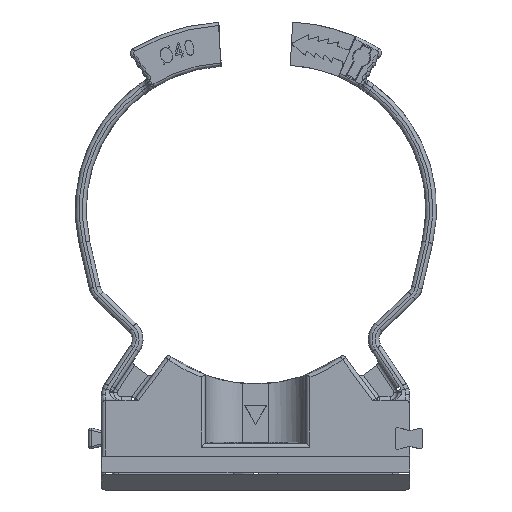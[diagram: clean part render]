
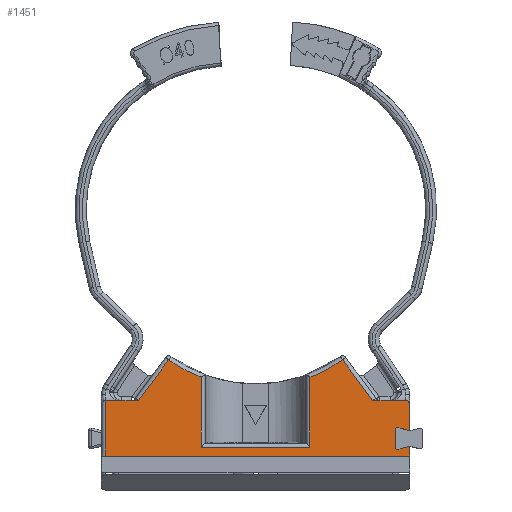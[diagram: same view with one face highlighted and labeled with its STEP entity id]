
A CAD part, top view. The second image highlights one B-rep face of the part: STEP entity #1451.
In plain terms, the highlighted planar face has unit normal (0, 0, 1).
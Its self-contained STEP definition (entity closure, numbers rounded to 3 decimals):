
#749=CIRCLE('',#8736,0.3);
#750=CIRCLE('',#8737,0.3);
#1135=ELLIPSE('',#8735,20.528,20.527);
#1136=ELLIPSE('',#8738,0.5,0.5);
#1137=ELLIPSE('',#8739,20.528,20.527);
#1451=ADVANCED_FACE('',(#2013),#1683,.T.);
#1683=PLANE('',#8740);
#2013=FACE_OUTER_BOUND('',#2453,.T.);
#2453=EDGE_LOOP('',(#3915,#3916,#3917,#3918,#3919,#3920,#3921,#3922,#3923,
#3924,#3925,#3926,#3927,#3928,#3929,#3930,#3931,#3932,#3933,#3934,#3935));
#3915=ORIENTED_EDGE('',*,*,#6576,.F.);
#3916=ORIENTED_EDGE('',*,*,#6577,.T.);
#3917=ORIENTED_EDGE('',*,*,#6561,.T.);
#3918=ORIENTED_EDGE('',*,*,#6550,.F.);
#3919=ORIENTED_EDGE('',*,*,#6339,.F.);
#3920=ORIENTED_EDGE('',*,*,#6578,.F.);
#3921=ORIENTED_EDGE('',*,*,#6579,.T.);
#3922=ORIENTED_EDGE('',*,*,#6019,.T.);
#3923=ORIENTED_EDGE('',*,*,#6580,.T.);
#3924=ORIENTED_EDGE('',*,*,#6581,.T.);
#3925=ORIENTED_EDGE('',*,*,#6582,.F.);
#3926=ORIENTED_EDGE('',*,*,#6583,.T.);
#3927=ORIENTED_EDGE('',*,*,#6584,.T.);
#3928=ORIENTED_EDGE('',*,*,#6008,.T.);
#3929=ORIENTED_EDGE('',*,*,#6585,.T.);
#3930=ORIENTED_EDGE('',*,*,#6350,.T.);
#3931=ORIENTED_EDGE('',*,*,#6549,.T.);
#3932=ORIENTED_EDGE('',*,*,#6564,.T.);
#3933=ORIENTED_EDGE('',*,*,#6586,.T.);
#3934=ORIENTED_EDGE('',*,*,#6545,.T.);
#3935=ORIENTED_EDGE('',*,*,#6587,.T.);
#5078=VERTEX_POINT('',#12732);
#5079=VERTEX_POINT('',#12734);
#5081=VERTEX_POINT('',#12740);
#5088=VERTEX_POINT('',#12754);
#5216=VERTEX_POINT('',#13926);
#5304=VERTEX_POINT('',#14402);
#5307=VERTEX_POINT('',#14413);
#5310=VERTEX_POINT('',#14420);
#5435=VERTEX_POINT('',#14891);
#5436=VERTEX_POINT('',#14893);
#5438=VERTEX_POINT('',#14941);
#5439=VERTEX_POINT('',#14952);
#5442=VERTEX_POINT('',#15049);
#5443=VERTEX_POINT('',#15053);
#5451=VERTEX_POINT('',#15077);
#5452=VERTEX_POINT('',#15078);
#5453=VERTEX_POINT('',#15081);
#5454=VERTEX_POINT('',#15084);
#5455=VERTEX_POINT('',#15086);
#5456=VERTEX_POINT('',#15088);
#5457=VERTEX_POINT('',#15090);
#6008=EDGE_CURVE('',#5079,#5078,#7116,.T.);
#6019=EDGE_CURVE('',#5081,#5088,#7127,.T.);
#6339=EDGE_CURVE('',#5216,#5304,#7232,.T.);
#6350=EDGE_CURVE('',#5307,#5310,#7240,.T.);
#6545=EDGE_CURVE('',#5436,#5435,#7357,.T.);
#6549=EDGE_CURVE('',#5310,#5438,#7358,.T.);
#6550=EDGE_CURVE('',#5304,#5439,#7359,.T.);
#6561=EDGE_CURVE('',#5442,#5439,#7360,.T.);
#6564=EDGE_CURVE('',#5438,#5443,#7361,.T.);
#6576=EDGE_CURVE('',#5451,#5452,#7367,.T.);
#6577=EDGE_CURVE('',#5451,#5442,#1135,.T.);
#6578=EDGE_CURVE('',#5453,#5216,#7368,.T.);
#6579=EDGE_CURVE('',#5453,#5081,#7369,.T.);
#6580=EDGE_CURVE('',#5088,#5454,#7370,.T.);
#6581=EDGE_CURVE('',#5454,#5455,#749,.T.);
#6582=EDGE_CURVE('',#5456,#5455,#7371,.T.);
#6583=EDGE_CURVE('',#5456,#5457,#750,.T.);
#6584=EDGE_CURVE('',#5457,#5079,#7372,.T.);
#6585=EDGE_CURVE('',#5078,#5307,#1136,.T.);
#6586=EDGE_CURVE('',#5443,#5436,#1137,.T.);
#6587=EDGE_CURVE('',#5435,#5452,#7373,.T.);
#7116=LINE('',#12733,#7677);
#7127=LINE('',#12755,#7688);
#7232=LINE('',#14401,#7795);
#7240=LINE('',#14421,#7803);
#7357=LINE('',#14892,#7920);
#7358=LINE('',#14942,#7921);
#7359=LINE('',#14951,#7922);
#7360=LINE('',#15048,#7923);
#7361=LINE('',#15054,#7924);
#7367=LINE('',#15076,#7930);
#7368=LINE('',#15080,#7931);
#7369=LINE('',#15082,#7932);
#7370=LINE('',#15083,#7933);
#7371=LINE('',#15087,#7934);
#7372=LINE('',#15091,#7935);
#7373=LINE('',#15094,#7936);
#7677=VECTOR('',#9551,1.);
#7688=VECTOR('',#9564,1.);
#7795=VECTOR('',#10119,1.);
#7803=VECTOR('',#10137,1.);
#7920=VECTOR('',#10494,1.);
#7921=VECTOR('',#10497,1.);
#7922=VECTOR('',#10498,1.);
#7923=VECTOR('',#10513,1.);
#7924=VECTOR('',#10520,1.);
#7930=VECTOR('',#10544,1.);
#7931=VECTOR('',#10547,1.);
#7932=VECTOR('',#10548,1.);
#7933=VECTOR('',#10549,1.);
#7934=VECTOR('',#10552,1.);
#7935=VECTOR('',#10555,1.);
#7936=VECTOR('',#10560,1.);
#8735=AXIS2_PLACEMENT_3D('',#15079,#10545,#10546);
#8736=AXIS2_PLACEMENT_3D('',#15085,#10550,#10551);
#8737=AXIS2_PLACEMENT_3D('',#15089,#10553,#10554);
#8738=AXIS2_PLACEMENT_3D('',#15092,#10556,#10557);
#8739=AXIS2_PLACEMENT_3D('',#15093,#10558,#10559);
#8740=AXIS2_PLACEMENT_3D('',#15095,#10561,#10562);
#9551=DIRECTION('',(0.,1.,0.));
#9564=DIRECTION('',(0.,1.,0.));
#10119=DIRECTION('',(1.,0.,0.));
#10137=DIRECTION('',(-1.,0.,0.));
#10494=DIRECTION('',(0.,-1.,0.));
#10497=DIRECTION('',(-1.,0.,0.));
#10498=DIRECTION('',(1.,0.,0.));
#10513=DIRECTION('',(-0.597,-0.802,0.));
#10520=DIRECTION('',(-0.597,0.802,0.));
#10544=DIRECTION('',(0.,-1.,0.));
#10545=DIRECTION('',(0.,0.,-1.));
#10546=DIRECTION('',(-0.463,-0.886,0.));
#10547=DIRECTION('',(0.,1.,0.));
#10548=DIRECTION('',(1.,0.,0.));
#10549=DIRECTION('',(-0.966,-0.259,0.));
#10550=DIRECTION('',(0.,0.,-1.));
#10551=DIRECTION('',(0.259,-0.966,0.));
#10552=DIRECTION('',(0.,-1.,0.));
#10553=DIRECTION('',(0.,0.,-1.));
#10554=DIRECTION('',(-1.,0.,0.));
#10555=DIRECTION('',(0.966,-0.259,0.));
#10556=DIRECTION('',(0.,0.,1.));
#10557=DIRECTION('',(0.707,0.707,0.));
#10558=DIRECTION('',(0.,0.,-1.));
#10559=DIRECTION('',(0.463,-0.886,0.));
#10560=DIRECTION('',(-1.,0.,0.));
#10561=DIRECTION('',(0.,0.,1.));
#10562=DIRECTION('',(-1.,0.,0.));
#12732=CARTESIAN_POINT('',(39.99,11.32,13.));
#12733=CARTESIAN_POINT('',(39.99,7.715,13.));
#12734=CARTESIAN_POINT('',(39.99,7.715,13.));
#12740=CARTESIAN_POINT('',(39.99,4.252,13.));
#12754=CARTESIAN_POINT('',(39.99,5.589,13.));
#12755=CARTESIAN_POINT('',(39.99,4.252,13.));
#13926=CARTESIAN_POINT('',(-1.394,11.82,12.993));
#14401=CARTESIAN_POINT('',(-1.397,11.82,13.));
#14402=CARTESIAN_POINT('',(2.392,11.82,13.));
#14413=CARTESIAN_POINT('',(39.49,11.82,13.));
#14420=CARTESIAN_POINT('',(35.701,11.82,13.));
#14421=CARTESIAN_POINT('',(-1.908,11.82,13.));
#14891=CARTESIAN_POINT('',(26.449,5.458,13.));
#14892=CARTESIAN_POINT('',(26.449,14.979,13.));
#14893=CARTESIAN_POINT('',(26.449,14.979,13.));
#14941=CARTESIAN_POINT('',(34.997,11.82,13.));
#14942=CARTESIAN_POINT('',(35.701,11.82,13.));
#14951=CARTESIAN_POINT('',(2.392,11.82,13.));
#14952=CARTESIAN_POINT('',(3.097,11.82,13.));
#15048=CARTESIAN_POINT('',(7.215,17.347,13.));
#15049=CARTESIAN_POINT('',(7.215,17.347,13.));
#15053=CARTESIAN_POINT('',(30.879,17.347,13.));
#15054=CARTESIAN_POINT('',(34.997,11.82,13.));
#15076=CARTESIAN_POINT('',(11.644,14.979,13.));
#15077=CARTESIAN_POINT('',(11.644,14.979,13.));
#15078=CARTESIAN_POINT('',(11.644,5.458,13.));
#15079=CARTESIAN_POINT('',(19.035,34.13,13.));
#15080=CARTESIAN_POINT('',(-1.401,4.252,13.));
#15081=CARTESIAN_POINT('',(-1.401,4.252,13.));
#15082=CARTESIAN_POINT('',(39.99,4.252,13.));
#15083=CARTESIAN_POINT('',(39.99,5.589,13.));
#15084=CARTESIAN_POINT('',(38.424,5.169,13.));
#15085=CARTESIAN_POINT('',(38.347,5.459,13.));
#15086=CARTESIAN_POINT('',(38.047,5.459,13.));
#15087=CARTESIAN_POINT('',(38.047,7.845,13.));
#15088=CARTESIAN_POINT('',(38.047,7.845,13.));
#15089=CARTESIAN_POINT('',(38.347,7.845,13.));
#15090=CARTESIAN_POINT('',(38.424,8.135,13.));
#15091=CARTESIAN_POINT('',(39.99,7.715,13.));
#15092=CARTESIAN_POINT('',(39.49,11.32,13.));
#15093=CARTESIAN_POINT('',(19.058,34.13,13.));
#15094=CARTESIAN_POINT('',(26.449,5.458,13.));
#15095=CARTESIAN_POINT('',(-1.908,-0.358,13.));
